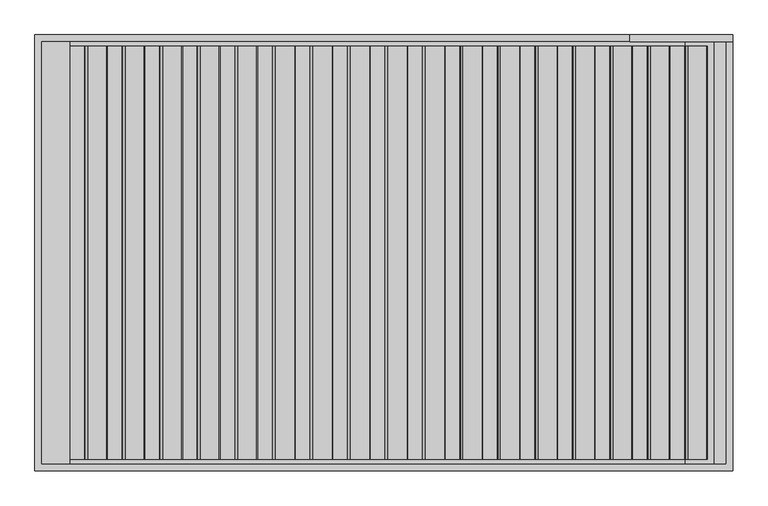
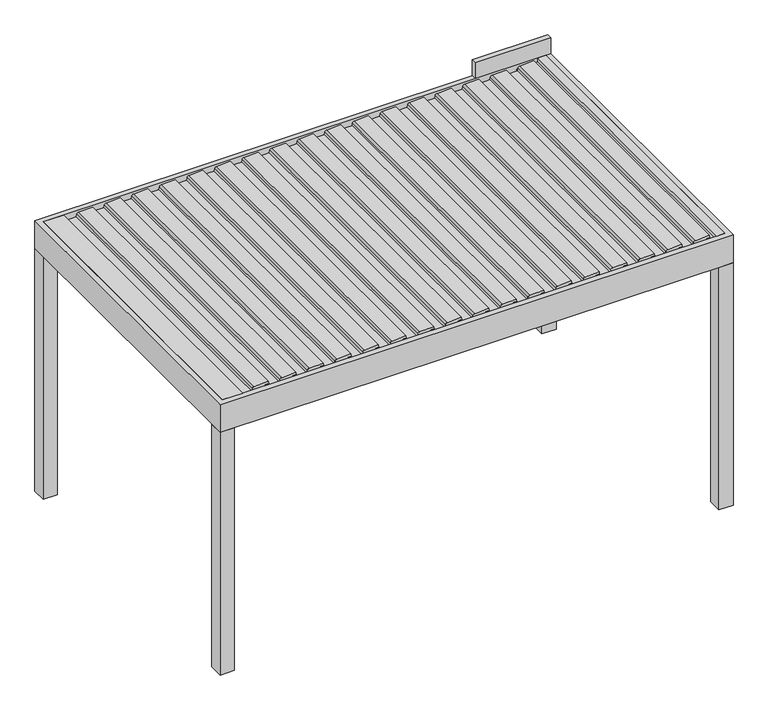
"""IFC4 building model written with IfcOpenShell, lengths in millimetres: proxy geometry, Renson_Algarve_Single : Algarve - Single."""

from ifc_helpers import new_model, si_unit, point, frame, frame_2d, origin, origin_with_axes, place, context, project, spatial, polyline, circle_curve, trimmed, segment, composite_curve, outline, extrude, faceted_brep, source, transform, mapped, element, save


def generic_models_6c472f40(model_context):
    return source(origin(), model_context, "Body", "SolidModel", [
        extrude(outline(composite_curve([segment(polyline([(2188.35, 1609.6114167), (2216.01198, 1612.0315264), (2217.3970364, 1640.8667769), (2236.8911096, 1637.4294458), (2231.6075693, 1527.4323309)]), True, "CONTINUOUS"), segment(trimmed(circle_curve(frame_2d((2216.6248435, 1528.1520029)), 15.0), [point((2231.6075693, 1527.4323309))], [point((2219.2295662, 1513.3798866))], False, "CARTESIAN"), True, "CONTINUOUS"), segment(polyline([(2219.2295662, 1513.3798866), (2200.0, 1509.9891952), (2200.0, 1422.2534192), (2217.0788237, 1419.2419618), (2216.3450182, 1403.9649913), (2188.35, 1401.5157446), (2188.35, 1609.6114167)]), True, "CONTINUOUS")], self_intersect=False)), frame((0.0, -1185.0, 0.0), z_axis=(0.0, 1.0, 0.0), x_axis=(0.0, 0.0, 1.0)), (0.0, 0.0, 1.0), 2370.0),
        extrude(outline(composite_curve([segment(polyline([(2188.35, 1394.600612), (2216.01198, 1397.0207216), (2217.3970364, 1425.8559721), (2236.8911096, 1422.418641), (2231.6075693, 1312.4215261)]), True, "CONTINUOUS"), segment(trimmed(circle_curve(frame_2d((2216.6248435, 1313.1411981)), 15.0), [point((2231.6075693, 1312.4215261))], [point((2219.2295662, 1298.3690818))], False, "CARTESIAN"), True, "CONTINUOUS"), segment(polyline([(2219.2295662, 1298.3690818), (2200.0, 1294.9783904), (2200.0, 1207.2426144), (2217.0788237, 1204.231157), (2216.3450182, 1188.9541865), (2188.35, 1186.5049398), (2188.35, 1394.600612)]), True, "CONTINUOUS")], self_intersect=False)), frame((0.0, -1185.0, 0.0), z_axis=(0.0, 1.0, 0.0), x_axis=(0.0, 0.0, 1.0)), (0.0, 0.0, 1.0), 2370.0),
        extrude(outline(composite_curve([segment(polyline([(2188.35, 1179.5898072), (2216.01198, 1182.0099168), (2217.3970364, 1210.8451673), (2236.8911096, 1207.4078362), (2231.6075693, 1097.4107214)]), True, "CONTINUOUS"), segment(trimmed(circle_curve(frame_2d((2216.6248435, 1098.1303933)), 15.0), [point((2231.6075693, 1097.4107214))], [point((2219.2295662, 1083.358277))], False, "CARTESIAN"), True, "CONTINUOUS"), segment(polyline([(2219.2295662, 1083.358277), (2200.0, 1079.9675857), (2200.0, 992.2318096), (2217.0788237, 989.2203522), (2216.3450182, 973.9433817), (2188.35, 971.494135), (2188.35, 1179.5898072)]), True, "CONTINUOUS")], self_intersect=False)), frame((0.0, -1185.0, 0.0), z_axis=(0.0, 1.0, 0.0), x_axis=(0.0, 0.0, 1.0)), (0.0, 0.0, 1.0), 2370.0),
        extrude(outline(composite_curve([segment(polyline([(2188.35, 964.5790024), (2216.01198, 966.999112), (2217.3970364, 995.8343625), (2236.8911096, 992.3970314), (2231.6075693, 882.3999166)]), True, "CONTINUOUS"), segment(trimmed(circle_curve(frame_2d((2216.6248435, 883.1195885)), 15.0), [point((2231.6075693, 882.3999166))], [point((2219.2295662, 868.3474722))], False, "CARTESIAN"), True, "CONTINUOUS"), segment(polyline([(2219.2295662, 868.3474722), (2200.0, 864.9567809), (2200.0, 777.2210048), (2217.0788237, 774.2095474), (2216.3450182, 758.932577), (2188.35, 756.4833302), (2188.35, 964.5790024)]), True, "CONTINUOUS")], self_intersect=False)), frame((0.0, -1185.0, 0.0), z_axis=(0.0, 1.0, 0.0), x_axis=(0.0, 0.0, 1.0)), (0.0, 0.0, 1.0), 2370.0),
        extrude(outline(composite_curve([segment(polyline([(2188.35, 749.5681976), (2216.01198, 751.9883073), (2217.3970364, 780.8235577), (2236.8911096, 777.3862267), (2231.6075693, 667.3891118)]), True, "CONTINUOUS"), segment(trimmed(circle_curve(frame_2d((2216.6248435, 668.1087837)), 15.0), [point((2231.6075693, 667.3891118))], [point((2219.2295662, 653.3366674))], False, "CARTESIAN"), True, "CONTINUOUS"), segment(polyline([(2219.2295662, 653.3366674), (2200.0, 649.9459761), (2200.0, 562.2102001), (2217.0788237, 559.1987426), (2216.3450182, 543.9217722), (2188.35, 541.4725254), (2188.35, 749.5681976)]), True, "CONTINUOUS")], self_intersect=False)), frame((0.0, -1185.0, 0.0), z_axis=(0.0, 1.0, 0.0), x_axis=(0.0, 0.0, 1.0)), (0.0, 0.0, 1.0), 2370.0),
        extrude(outline(composite_curve([segment(polyline([(2188.35, 534.5573928), (2216.01198, 536.9775025), (2217.3970364, 565.8127529), (2236.8911096, 562.3754219), (2231.6075693, 452.378307)]), True, "CONTINUOUS"), segment(trimmed(circle_curve(frame_2d((2216.6248435, 453.0979789)), 15.0), [point((2231.6075693, 452.378307))], [point((2219.2295662, 438.3258627))], False, "CARTESIAN"), True, "CONTINUOUS"), segment(polyline([(2219.2295662, 438.3258627), (2200.0, 434.9351713), (2200.0, 347.1993953), (2217.0788237, 344.1879379), (2216.3450182, 328.9109674), (2188.35, 326.4617207), (2188.35, 534.5573928)]), True, "CONTINUOUS")], self_intersect=False)), frame((0.0, -1185.0, 0.0), z_axis=(0.0, 1.0, 0.0), x_axis=(0.0, 0.0, 1.0)), (0.0, 0.0, 1.0), 2370.0),
        extrude(outline(composite_curve([segment(polyline([(2188.35, 319.546588), (2216.01198, 321.9666977), (2217.3970364, 350.8019482), (2236.8911096, 347.3646171), (2231.6075693, 237.3675022)]), True, "CONTINUOUS"), segment(trimmed(circle_curve(frame_2d((2216.6248435, 238.0871742)), 15.0), [point((2231.6075693, 237.3675022))], [point((2219.2295662, 223.3150579))], False, "CARTESIAN"), True, "CONTINUOUS"), segment(polyline([(2219.2295662, 223.3150579), (2200.0, 219.9243665), (2200.0, 132.1885905), (2217.0788237, 129.1771331), (2216.3450182, 113.9001626), (2188.35, 111.4509159), (2188.35, 319.546588)]), True, "CONTINUOUS")], self_intersect=False)), frame((0.0, -1185.0, 0.0), z_axis=(0.0, 1.0, 0.0), x_axis=(0.0, 0.0, 1.0)), (0.0, 0.0, 1.0), 2370.0),
        extrude(outline(composite_curve([segment(polyline([(2188.35, 104.5357833), (2216.01198, 106.9558929), (2217.3970364, 135.7911434), (2236.8911096, 132.3538123), (2231.6075693, 22.3566975)]), True, "CONTINUOUS"), segment(trimmed(circle_curve(frame_2d((2216.6248435, 23.0763694)), 15.0), [point((2231.6075693, 22.3566975))], [point((2219.2295662, 8.3042531))], False, "CARTESIAN"), True, "CONTINUOUS"), segment(polyline([(2219.2295662, 8.3042531), (2200.0, 4.9135617), (2200.0, -82.8222143), (2217.0788237, -85.8336717), (2216.3450182, -101.1106422), (2188.35, -103.5598889), (2188.35, 104.5357833)]), True, "CONTINUOUS")], self_intersect=False)), frame((0.0, -1185.0, 0.0), z_axis=(0.0, 1.0, 0.0), x_axis=(0.0, 0.0, 1.0)), (0.0, 0.0, 1.0), 2370.0),
        extrude(outline(composite_curve([segment(polyline([(2188.35, -110.4750215), (2216.01198, -108.0549119), (2217.3970364, -79.2196614), (2236.8911096, -82.6569925), (2231.6075693, -192.6541073)]), True, "CONTINUOUS"), segment(trimmed(circle_curve(frame_2d((2216.6248435, -191.9344354)), 15.0), [point((2231.6075693, -192.6541073))], [point((2219.2295662, -206.7065517))], False, "CARTESIAN"), True, "CONTINUOUS"), segment(polyline([(2219.2295662, -206.7065517), (2200.0, -210.097243), (2200.0, -297.8330191), (2217.0788237, -300.8444765), (2216.3450182, -316.121447), (2188.35, -318.5706937), (2188.35, -110.4750215)]), True, "CONTINUOUS")], self_intersect=False)), frame((0.0, -1185.0, 0.0), z_axis=(0.0, 1.0, 0.0), x_axis=(0.0, 0.0, 1.0)), (0.0, 0.0, 1.0), 2370.0),
        extrude(outline(composite_curve([segment(polyline([(2188.35, -325.4858263), (2216.01198, -323.0657166), (2217.3970364, -294.2304662), (2236.8911096, -297.6677973), (2231.6075693, -407.6649121)]), True, "CONTINUOUS"), segment(trimmed(circle_curve(frame_2d((2216.6248435, -406.9452402)), 15.0), [point((2231.6075693, -407.6649121))], [point((2219.2295662, -421.7173565))], False, "CARTESIAN"), True, "CONTINUOUS"), segment(polyline([(2219.2295662, -421.7173565), (2200.0, -425.1080478), (2200.0, -512.8438238), (2217.0788237, -515.8552813), (2216.3450182, -531.1322517), (2188.35, -533.5814985), (2188.35, -325.4858263)]), True, "CONTINUOUS")], self_intersect=False)), frame((0.0, -1185.0, 0.0), z_axis=(0.0, 1.0, 0.0), x_axis=(0.0, 0.0, 1.0)), (0.0, 0.0, 1.0), 2370.0),
        extrude(outline(composite_curve([segment(polyline([(2188.35, -540.4966311), (2216.01198, -538.0765214), (2217.3970364, -509.241271), (2236.8911096, -512.678602), (2231.6075693, -622.6757169)]), True, "CONTINUOUS"), segment(trimmed(circle_curve(frame_2d((2216.6248435, -621.956045)), 15.0), [point((2231.6075693, -622.6757169))], [point((2219.2295662, -636.7281613))], False, "CARTESIAN"), True, "CONTINUOUS"), segment(polyline([(2219.2295662, -636.7281613), (2200.0, -640.1188526), (2200.0, -727.8546286), (2217.0788237, -730.866086), (2216.3450182, -746.1430565), (2188.35, -748.5923032), (2188.35, -540.4966311)]), True, "CONTINUOUS")], self_intersect=False)), frame((0.0, -1185.0, 0.0), z_axis=(0.0, 1.0, 0.0), x_axis=(0.0, 0.0, 1.0)), (0.0, 0.0, 1.0), 2370.0),
        extrude(outline(composite_curve([segment(polyline([(2188.35, -755.5074359), (2216.01198, -753.0873262), (2217.3970364, -724.2520757), (2236.8911096, -727.6894068), (2231.6075693, -837.6865217)]), True, "CONTINUOUS"), segment(trimmed(circle_curve(frame_2d((2216.6248435, -836.9668497)), 15.0), [point((2231.6075693, -837.6865217))], [point((2219.2295662, -851.738966))], False, "CARTESIAN"), True, "CONTINUOUS"), segment(polyline([(2219.2295662, -851.738966), (2200.0, -855.1296574), (2200.0, -942.8654334), (2217.0788237, -945.8768908), (2216.3450182, -961.1538613), (2188.35, -963.603108), (2188.35, -755.5074359)]), True, "CONTINUOUS")], self_intersect=False)), frame((0.0, -1185.0, 0.0), z_axis=(0.0, 1.0, 0.0), x_axis=(0.0, 0.0, 1.0)), (0.0, 0.0, 1.0), 2370.0),
        extrude(outline(composite_curve([segment(polyline([(2188.35, -970.5182406), (2216.01198, -968.098131), (2217.3970364, -939.2628805), (2236.8911096, -942.7002116), (2231.6075693, -1052.6973265)]), True, "CONTINUOUS"), segment(trimmed(circle_curve(frame_2d((2216.6248435, -1051.9776545)), 15.0), [point((2231.6075693, -1052.6973265))], [point((2219.2295662, -1066.7497708))], False, "CARTESIAN"), True, "CONTINUOUS"), segment(polyline([(2219.2295662, -1066.7497708), (2200.0, -1070.1404622), (2200.0, -1157.8762382), (2217.0788237, -1160.8876956), (2216.3450182, -1176.1646661), (2188.35, -1178.6139128), (2188.35, -970.5182406)]), True, "CONTINUOUS")], self_intersect=False)), frame((0.0, -1185.0, 0.0), z_axis=(0.0, 1.0, 0.0), x_axis=(0.0, 0.0, 1.0)), (0.0, 0.0, 1.0), 2370.0),
        extrude(outline(composite_curve([segment(polyline([(2188.35, -1185.5290454), (2216.01198, -1183.1089358), (2217.3970364, -1154.2736853), (2236.8911096, -1157.7110164), (2231.6075693, -1267.7081312)]), True, "CONTINUOUS"), segment(trimmed(circle_curve(frame_2d((2216.6248435, -1266.9884593)), 15.0), [point((2231.6075693, -1267.7081312))], [point((2219.2295662, -1281.7605756))], False, "CARTESIAN"), True, "CONTINUOUS"), segment(polyline([(2219.2295662, -1281.7605756), (2200.0, -1285.1512669), (2200.0, -1372.887043), (2217.0788237, -1375.8985004), (2216.3450182, -1391.1754709), (2188.35, -1393.6247176), (2188.35, -1185.5290454)]), True, "CONTINUOUS")], self_intersect=False)), frame((0.0, -1185.0, 0.0), z_axis=(0.0, 1.0, 0.0), x_axis=(0.0, 0.0, 1.0)), (0.0, 0.0, 1.0), 2370.0),
        extrude(outline(composite_curve([segment(polyline([(2188.35, -1400.5398502), (2216.01198, -1398.1197405), (2217.3970364, -1369.2844901), (2236.8911096, -1372.7218212), (2231.6075693, -1482.718936)]), True, "CONTINUOUS"), segment(trimmed(circle_curve(frame_2d((2216.6248435, -1481.9992641)), 15.0), [point((2231.6075693, -1482.718936))], [point((2219.2295662, -1496.7713804))], False, "CARTESIAN"), True, "CONTINUOUS"), segment(polyline([(2219.2295662, -1496.7713804), (2200.0, -1500.1620717), (2200.0, -1587.8978478), (2217.0788237, -1590.9093052), (2216.3450182, -1606.1862756), (2188.35, -1608.6355224), (2188.35, -1400.5398502)]), True, "CONTINUOUS")], self_intersect=False)), frame((0.0, -1185.0, 0.0), z_axis=(0.0, 1.0, 0.0), x_axis=(0.0, 0.0, 1.0)), (0.0, 0.0, 1.0), 2370.0),
        extrude(outline(composite_curve([segment(polyline([(2188.35, 1824.6222215), (2216.01198, 1827.0423312), (2217.3970364, 1855.8775816), (2236.8911096, 1852.4402506), (2231.6075693, 1742.4431357)]), True, "CONTINUOUS"), segment(trimmed(circle_curve(frame_2d((2216.6248435, 1743.1628076)), 15.0), [point((2231.6075693, 1742.4431357))], [point((2219.2295662, 1728.3906913))], False, "CARTESIAN"), True, "CONTINUOUS"), segment(polyline([(2219.2295662, 1728.3906913), (2200.0, 1725.0), (2200.0, 1637.264224), (2217.0788237, 1634.2527666), (2216.3450182, 1618.9757961), (2188.35, 1616.5265494), (2188.35, 1824.6222215)]), True, "CONTINUOUS")], self_intersect=False)), frame((0.0, -1185.0, 0.0), z_axis=(0.0, 1.0, 0.0), x_axis=(0.0, 0.0, 1.0)), (0.0, 0.0, 1.0), 2370.0),
        extrude(outline(composite_curve([segment(polyline([(2188.35, -1615.550655), (2216.01198, -1613.1305453), (2217.3970364, -1584.2952949), (2236.8911096, -1587.7326259), (2231.6075693, -1697.7297408)]), True, "CONTINUOUS"), segment(trimmed(circle_curve(frame_2d((2216.6248435, -1697.0100689)), 15.0), [point((2231.6075693, -1697.7297408))], [point((2219.2295662, -1711.7821852))], False, "CARTESIAN"), True, "CONTINUOUS"), segment(polyline([(2219.2295662, -1711.7821852), (2200.0, -1715.1728765), (2200.0, -1802.9086525), (2217.0788237, -1805.9201099), (2216.3450182, -1821.1970804), (2188.35, -1823.6463271), (2188.35, -1615.550655)]), True, "CONTINUOUS")], self_intersect=False)), frame((0.0, -1185.0, 0.0), z_axis=(0.0, 1.0, 0.0), x_axis=(0.0, 0.0, 1.0)), (0.0, 0.0, 1.0), 2370.0),
        extrude(outline(polyline([(2168.0, 1960.0), (2230.0, 1960.0), (2230.0, 1896.0), (2198.0, 1896.0), (2198.0, 1730.0), (2168.0, 1730.0), (2168.0, 1960.0)])), frame((0.0, -1210.0, 0.0), z_axis=(0.0, 1.0, 0.0), x_axis=(0.0, 0.0, 1.0)), (0.0, 0.0, 1.0), 2420.0),
        extrude(outline(polyline([(2230.0, -1800.0), (2230.0, -1960.0), (2186.0, -1960.0), (2186.0, -1827.3193336), (2219.1716603, -1824.4171894), (2220.344502, -1800.0), (2230.0, -1800.0)])), frame((0.0, -1210.0, 0.0), z_axis=(0.0, 1.0, 0.0), x_axis=(0.0, 0.0, 1.0)), (0.0, 0.0, 1.0), 2420.0),
        faceted_brep([(1890.0, 1140.0, 2057.0), (1890.0, 1140.0, 2000.0), (1890.0, -1140.0, 2000.0), (1890.0, -1140.0, 2057.0), (2000.0, 1250.0, 2000.0), (2000.0, 1250.0, 2230.0), (2000.0, -1250.0, 2230.0), (2000.0, -1250.0, 2000.0), (1960.0, 1210.0, 2230.0), (1960.0, 1210.0, 2057.0), (1960.0, -1210.0, 2057.0), (1960.0, -1210.0, 2230.0), (-1890.0, -1140.0, 2000.0), (-1890.0, -1140.0, 2057.0), (-2000.0, -1250.0, 2230.0), (-2000.0, -1250.0, 2000.0), (-1960.0, -1210.0, 2057.0), (-1960.0, -1210.0, 2230.0), (-1890.0, 1140.0, 2000.0), (-1890.0, 1140.0, 2057.0), (-2000.0, 1250.0, 2230.0), (-2000.0, 1250.0, 2000.0), (-1960.0, 1210.0, 2057.0), (-1960.0, 1210.0, 2230.0)], [[[0, 1, 2, 3]], [[4, 5, 6, 7]], [[8, 9, 10, 11]], [[3, 2, 12, 13]], [[7, 6, 14, 15]], [[11, 10, 16, 17]], [[13, 12, 18, 19]], [[15, 14, 20, 21]], [[17, 16, 22, 23]], [[9, 22, 16, 10], [3, 13, 19, 0]], [[19, 18, 1, 0]], [[7, 15, 21, 4], [1, 18, 12, 2]], [[21, 20, 5, 4]], [[5, 20, 14, 6], [11, 17, 23, 8]], [[23, 22, 9, 8]]]),
        extrude(outline(polyline([(2000.0, 1250.0), (2000.0, 1140.0), (1890.0, 1140.0), (1890.0, 1250.0), (2000.0, 1250.0)])), origin_with_axes(), (0.0, 0.0, 1.0), 2000.0),
        extrude(outline(polyline([(2000.0, -1140.0), (2000.0, -1250.0), (1890.0, -1250.0), (1890.0, -1140.0), (2000.0, -1140.0)])), origin_with_axes(), (0.0, 0.0, 1.0), 2000.0),
        extrude(outline(polyline([(-1890.0, -1140.0), (-1890.0, -1250.0), (-2000.0, -1250.0), (-2000.0, -1140.0), (-1890.0, -1140.0)])), origin_with_axes(), (0.0, 0.0, 1.0), 2000.0),
        extrude(outline(polyline([(-1890.0, 1250.0), (-1890.0, 1140.0), (-2000.0, 1140.0), (-2000.0, 1250.0), (-1890.0, 1250.0)])), origin_with_axes(), (0.0, 0.0, 1.0), 2000.0),
        extrude(outline(polyline([(2000.0, 1250.0), (2000.0, 1210.0), (1410.0, 1210.0), (1410.0, 1250.0), (2000.0, 1250.0)])), frame((0.0, 0.0, 2230.0), z_axis=(0.0, 0.0, 1.0), x_axis=(1.0, 0.0, 0.0)), (0.0, 0.0, 1.0), 130.0),
    ])


if __name__ == "__main__":
    model = new_model("IFC4")
    model_context = context("Model", 3, world=origin())
    ifc_project = project(units=[si_unit("LENGTHUNIT", "METRE", prefix="MILLI")], contexts=[model_context])
    site = spatial("IfcSite", under=ifc_project)
    building = spatial("IfcBuilding", under=site)
    placement = place(None, origin())
    generic_models_shape = generic_models_6c472f40(model_context)
    element("IfcBuildingElementProxy", 1, Name="Renson_Algarve_Single : Algarve - Single", ObjectType="Renson_Algarve_Single : Algarve - Single", at=placement, inside=building, context=model_context, shape_type="MappedRepresentation", body=[
        mapped(generic_models_shape, transform((0.0, 0.0, 0.0), x_axis=(1.0, 0.0, 0.0), y_axis=(0.0, 1.0, 0.0), z_axis=(0.0, 0.0, 1.0))),
    ])
    save(model, "model.ifc")
